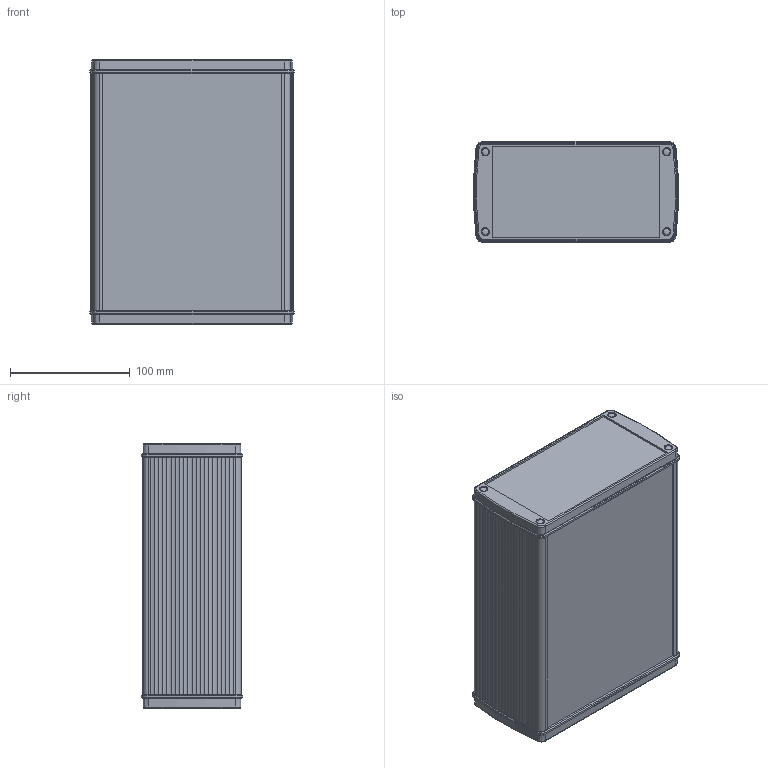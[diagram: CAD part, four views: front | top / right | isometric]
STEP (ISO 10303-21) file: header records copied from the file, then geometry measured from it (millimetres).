
FILE_DESCRIPTION(/* description */ (''),/* implementation_level */ '2;1');
FILE_NAME(/* name */ 'F:\User\Daten\Internetdaten-Entwicklung\Handelsmarketing\Zusammenbauzeichnungen_Conrad\Alubos\STEP\84686200.H_ABPH 1680-200.stp',/* time_stamp */ '2016-05-30T11:42:46+02:00',/* author */ ('arempel'),/* organization */ (''),/* preprocessor_version */ 'ST-DEVELOPER v16.1',/* originating_system */ 'Autodesk Inventor 2016',/* authorisation */ '');
FILE_SCHEMA (('AUTOMOTIVE_DESIGN { 1 0 10303 214 3 1 1 }'));
Length unit declared in the file: millimetre
Products named in the file (3): 84686200_ABPH 1680-0200; 84168100_ABD 1680; 84686200.H_ABPH 1680-200
Assembly tree (3 placements, depth 2):
  84686200.H_ABPH 1680-200
    84686200_ABPH 1680-0200
    84168100_ABD 1680  x2
Bounding box: 171.1 x 84.6 x 221.1 mm (x, y, z)
Volume: 501206.8 mm3; surface area: 373249.8 mm2
Topology: 22 solids, 22 shells, 2372 faces, 6086 edges, 3836 vertices
Faces by surface type: plane 1152, cylinder 744, bspline 140, sphere 136, cone 128, torus 72
Full cylindrical faces by diameter (mm): 3 x8, 3.4 x8, 4.6 x4, 5.3 x8, 5.6 x8, 6 x8, 6.4 x8, 7 x8
Entity records: 48027 total; most frequent: CARTESIAN_POINT 11504, ORIENTED_EDGE 7576, DIRECTION 7482, EDGE_CURVE 3788, LINE 2590, VECTOR 2590, VERTEX_POINT 2484, AXIS2_PLACEMENT_3D 2446
